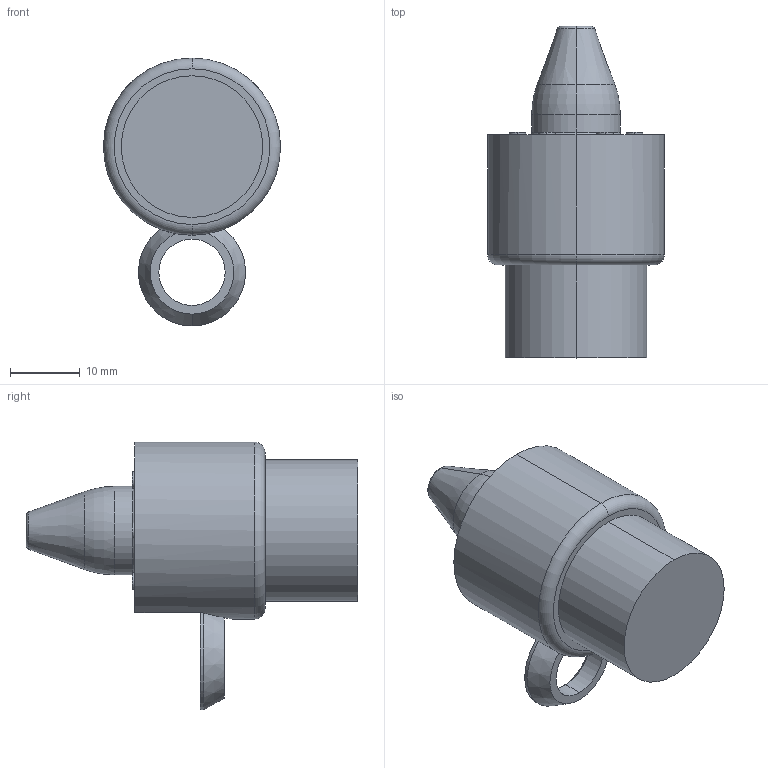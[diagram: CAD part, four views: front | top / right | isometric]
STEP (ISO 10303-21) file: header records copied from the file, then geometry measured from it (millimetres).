
FILE_DESCRIPTION (( 'STEP AP214' ), '1' );
FILE_NAME ('PA-.500-.100-P-F1.stp', '2020-05-01T17:47:03', ( '' ), ( '' ), 'SwSTEP 2.0', 'SolidWorks 2017', '' );
FILE_SCHEMA (( 'AUTOMOTIVE_DESIGN' ));
Length unit declared in the file: inch
Products named in the file (1): PA-.500-.100-P-F1
Bounding box: 25.4 x 47.62 x 38.43 mm (x, y, z)
Volume: 15184.5 mm3; surface area: 4129.3 mm2
Topology: 2 solids, 2 shells, 52 faces, 105 edges, 65 vertices
Faces by surface type: cylinder 23, plane 12, torus 9, cone 8
Entity records: 1458 total; most frequent: DIRECTION 277, CARTESIAN_POINT 255, ORIENTED_EDGE 210, AXIS2_PLACEMENT_3D 123, EDGE_CURVE 105, CIRCLE 70, VERTEX_POINT 65, EDGE_LOOP 62
